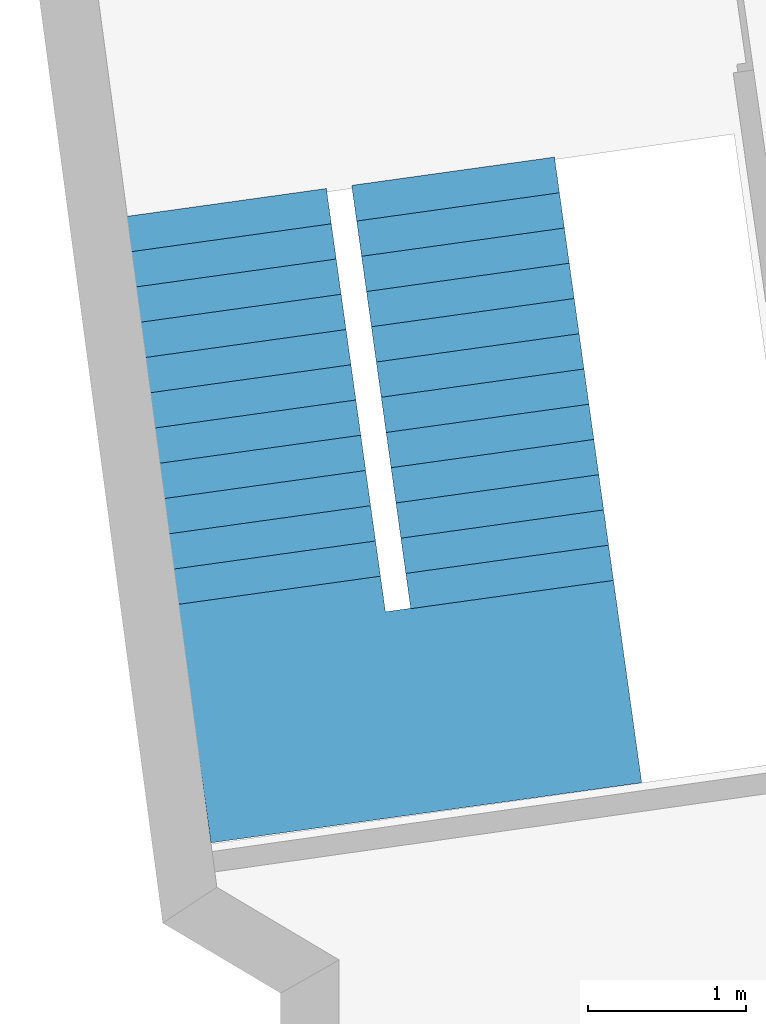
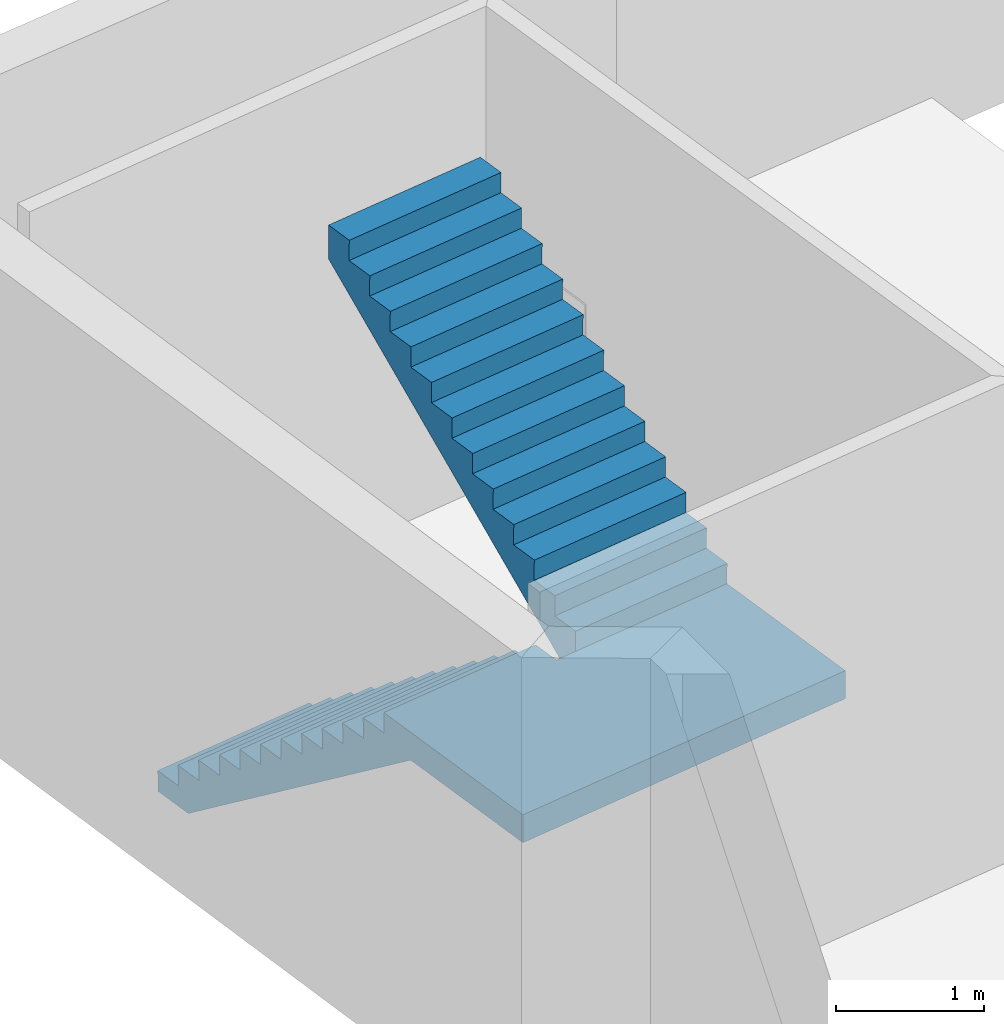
# One storey, part 12 of 17: 1 stair.
"""IFC2X3 building model written with IfcOpenShell, lengths in metres."""

from ifc_helpers import new_model, entity, si_unit, converted_unit, money_unit, direction, frame, origin_with_axes, place, context, subcontext, project, spatial, faceted_brep, material, element, save


model = new_model("IFC2X3")

# Units and contexts
model_context = context("Model", 3, precision=1e-05, world=origin_with_axes(), true_north=direction((0.0, 1.0)))
body_context = subcontext(model_context, "Body", "Model", "MODEL_VIEW")
ifc_project = project(units=[si_unit("LENGTHUNIT", "METRE"), si_unit("AREAUNIT", "SQUARE_METRE"), si_unit("VOLUMEUNIT", "CUBIC_METRE"), converted_unit("PLANEANGLEUNIT", "DEGREE", entity("IfcPlaneAngleMeasure", 0.0174532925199), si_unit("PLANEANGLEUNIT", "RADIAN"), dimensions=[0, 0, 0, 0, 0, 0, 0]), si_unit("SOLIDANGLEUNIT", "STERADIAN"), money_unit("EUR"), converted_unit("TIMEUNIT", "Year", entity("IfcTimeMeasure", 31556926.0), si_unit("TIMEUNIT", "SECOND"), dimensions=[0, 0, 0, 0, 0, 0, 0]), si_unit("MASSUNIT", "GRAM"), si_unit("THERMODYNAMICTEMPERATUREUNIT", "DEGREE_CELSIUS"), si_unit("LUMINOUSINTENSITYUNIT", "LUMEN")], contexts=[model_context])

# Site, building, storey
site_placement = place(None, origin_with_axes())
site = spatial("IfcSite", under=ifc_project, at=site_placement, Name="Undefined", CompositionType="ELEMENT")
building_placement = place(site_placement, origin_with_axes())
building = spatial("IfcBuilding", under=site, at=building_placement, Name="Undefined", CompositionType="ELEMENT")
storey_placement = place(building_placement, frame((0.0, 0.0, 9.425), z_axis=(0.0, 0.0, 1.0), x_axis=(1.0, 0.0, 0.0)))
storey = spatial("IfcBuildingStorey", under=building, at=storey_placement, Name="Mezzannine", CompositionType="ELEMENT", Elevation=9.425)

# Stair
ifc_material = material(Name="Concrete Block")
stair_placement = place(storey_placement, frame((-1.36505046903, 23.3587737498, 0.0), z_axis=(0.0, 0.0, 1.0), x_axis=(0.138136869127, -0.990413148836, 0.0)))
element("IfcStair", 1, at=stair_placement, inside=storey, material=ifc_material, Name="Stair_01", ObjectType="STAIR", ShapeType="NOTDEFINED", context=body_context, shape_type="Brep", body=[
    faceted_brep([(0.334833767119, 0.0, 0.0), (0.334833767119, 1.29732646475, 0.0), (2.77183291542, 1.29732646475, 1.785), (2.77183291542, 0.0, 1.785), (0.02, 0.0, 0.0), (0.02, 1.29732646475, 0.0), (0.02, 1.29732646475, 0.137916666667), (0.245461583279, 1.29732646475, 0.137916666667), (0.245461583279, 1.29732646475, 0.305833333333), (0.470923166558, 1.29732646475, 0.305833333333), (0.470923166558, 1.29732646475, 0.47375), (0.696384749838, 1.29732646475, 0.47375), (0.696384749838, 1.29732646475, 0.641666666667), (0.921846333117, 1.29732646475, 0.641666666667), (0.921846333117, 1.29732646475, 0.809583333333), (1.1473079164, 1.29732646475, 0.809583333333), (1.1473079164, 1.29732646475, 0.9775), (1.37276949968, 1.29732646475, 0.9775), (1.37276949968, 1.29732646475, 1.14541666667), (1.59823108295, 1.29732646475, 1.14541666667), (1.59823108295, 1.29732646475, 1.31333333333), (1.82369266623, 1.29732646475, 1.31333333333), (1.82369266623, 1.29732646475, 1.48125), (2.04915424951, 1.29732646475, 1.48125), (2.04915424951, 1.29732646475, 1.64916666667), (2.27461583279, 1.29732646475, 1.64916666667), (2.27461583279, 1.29732646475, 1.81708333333), (2.50007741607, 1.29732646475, 1.81708333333), (2.50007741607, 1.29732646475, 1.985), (2.72553899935, 1.29732646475, 1.985), (4.0028654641, 1.29732646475, 1.985), (4.0028654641, 1.29732646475, 1.785), (4.0028654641, 0.0, 1.785), (4.0028654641, 0.0, 1.985), (2.72553899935, 0.0, 1.985), (2.50007741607, 0.0, 1.985), (2.50007741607, 0.0, 1.81708333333), (2.27461583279, 0.0, 1.81708333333), (2.27461583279, 0.0, 1.64916666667), (2.04915424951, 0.0, 1.64916666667), (2.04915424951, 0.0, 1.48125), (1.82369266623, 0.0, 1.48125), (1.82369266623, 0.0, 1.31333333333), (1.59823108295, 0.0, 1.31333333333), (1.59823108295, 0.0, 1.14541666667), (1.37276949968, 0.0, 1.14541666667), (1.37276949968, 0.0, 0.9775), (1.1473079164, 0.0, 0.9775), (1.1473079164, 0.0, 0.809583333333), (0.921846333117, 0.0, 0.809583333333), (0.921846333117, 0.0, 0.641666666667), (0.696384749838, 0.0, 0.641666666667), (0.696384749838, 0.0, 0.47375), (0.470923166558, 0.0, 0.47375), (0.470923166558, 0.0, 0.305833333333), (0.245461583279, 0.0, 0.305833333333), (0.245461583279, 0.0, 0.137916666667), (0.02, 0.0, 0.137916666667)], [[[0, 1, 2, 3]], [[4, 5, 1, 0]], [[1, 5, 6, 7, 8, 9, 10, 11, 12, 13, 14, 15, 16, 17, 18, 19, 20, 21, 22, 23, 24, 25, 26, 27, 28, 29, 30, 31, 2]], [[3, 2, 31, 32]], [[0, 3, 32, 33, 34, 35, 36, 37, 38, 39, 40, 41, 42, 43, 44, 45, 46, 47, 48, 49, 50, 51, 52, 53, 54, 55, 56, 57, 4]], [[57, 6, 5, 4]], [[56, 7, 6, 57]], [[55, 8, 7, 56]], [[54, 9, 8, 55]], [[53, 10, 9, 54]], [[52, 11, 10, 53]], [[51, 12, 11, 52]], [[50, 13, 12, 51]], [[49, 14, 13, 50]], [[48, 15, 14, 49]], [[47, 16, 15, 48]], [[46, 17, 16, 47]], [[45, 18, 17, 46]], [[44, 19, 18, 45]], [[43, 20, 19, 44]], [[42, 21, 20, 43]], [[41, 22, 21, 42]], [[40, 23, 22, 41]], [[39, 24, 23, 40]], [[38, 25, 24, 39]], [[37, 26, 25, 38]], [[36, 27, 26, 37]], [[35, 28, 27, 36]], [[34, 29, 28, 35]], [[33, 30, 29, 34]], [[32, 31, 30, 33]]]),
    faceted_brep([(2.70553899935, 1.29732646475, 1.985), (2.70553899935, 1.45900763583, 1.985), (2.70553899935, 1.45900763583, 1.785), (2.70553899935, 1.29732646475, 1.785), (4.0028654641, 1.29732646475, 1.985), (4.0028654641, 1.45900763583, 1.985), (4.0028654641, 1.45900763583, 1.785), (2.77183291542, 1.45900763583, 1.785), (2.77183291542, 1.29732646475, 1.785), (4.0028654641, 1.29732646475, 1.785)], [[[0, 1, 2, 3]], [[4, 5, 1, 0]], [[1, 5, 6, 7, 2]], [[3, 2, 7, 8]], [[0, 3, 8, 9, 4]], [[9, 6, 5, 4]], [[8, 7, 6, 9]]]),
    faceted_brep([(2.70553899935, 1.45900763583, 1.985), (2.70553899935, 2.75633410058, 1.985), (2.70553899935, 2.75633410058, 1.785), (2.70553899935, 1.45900763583, 1.785), (4.0028654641, 1.45900763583, 1.985), (4.0028654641, 2.75633410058, 1.985), (4.0028654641, 2.75633410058, 1.785), (4.0028654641, 1.45900763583, 1.785)], [[[0, 1, 2, 3]], [[4, 5, 1, 0]], [[1, 5, 6, 2]], [[3, 2, 6, 7]], [[0, 3, 7, 4]], [[7, 6, 5, 4]]]),
    faceted_brep([(2.70553899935, 1.45900763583, 1.785), (2.63924508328, 1.45900763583, 1.785), (2.63924508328, 2.75633410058, 1.785), (2.70553899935, 2.75633410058, 1.785), (2.70553899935, 1.45900763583, 1.985), (2.68553899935, 1.45900763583, 1.985), (2.68553899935, 1.45900763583, 2.15291666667), (2.46007741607, 1.45900763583, 2.15291666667), (2.46007741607, 1.45900763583, 2.32083333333), (2.23461583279, 1.45900763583, 2.32083333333), (2.23461583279, 1.45900763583, 2.48875), (2.00915424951, 1.45900763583, 2.48875), (2.00915424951, 1.45900763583, 2.65666666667), (1.78369266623, 1.45900763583, 2.65666666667), (1.78369266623, 1.45900763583, 2.82458333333), (1.55823108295, 1.45900763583, 2.82458333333), (1.55823108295, 1.45900763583, 2.9925), (1.33276949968, 1.45900763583, 2.9925), (1.33276949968, 1.45900763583, 3.16041666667), (1.1073079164, 1.45900763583, 3.16041666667), (1.1073079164, 1.45900763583, 3.32833333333), (0.881846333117, 1.45900763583, 3.32833333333), (0.881846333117, 1.45900763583, 3.49625), (0.656384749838, 1.45900763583, 3.49625), (0.656384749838, 1.45900763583, 3.66416666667), (0.430923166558, 1.45900763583, 3.66416666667), (0.430923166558, 1.45900763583, 3.83208333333), (0.205461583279, 1.45900763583, 3.83208333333), (0.205461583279, 1.45900763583, 4.0), (0.0, 1.45900763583, 4.0), (0.0, 1.45900763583, 3.75062638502), (0.0, 2.75633410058, 3.75062638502), (0.0, 2.75633410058, 4.0), (0.205461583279, 2.75633410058, 4.0), (0.205461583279, 2.75633410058, 3.83208333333), (0.430923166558, 2.75633410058, 3.83208333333), (0.430923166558, 2.75633410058, 3.66416666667), (0.656384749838, 2.75633410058, 3.66416666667), (0.656384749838, 2.75633410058, 3.49625), (0.881846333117, 2.75633410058, 3.49625), (0.881846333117, 2.75633410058, 3.32833333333), (1.1073079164, 2.75633410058, 3.32833333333), (1.1073079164, 2.75633410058, 3.16041666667), (1.33276949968, 2.75633410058, 3.16041666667), (1.33276949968, 2.75633410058, 2.9925), (1.55823108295, 2.75633410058, 2.9925), (1.55823108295, 2.75633410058, 2.82458333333), (1.78369266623, 2.75633410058, 2.82458333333), (1.78369266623, 2.75633410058, 2.65666666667), (2.00915424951, 2.75633410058, 2.65666666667), (2.00915424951, 2.75633410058, 2.48875), (2.23461583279, 2.75633410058, 2.48875), (2.23461583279, 2.75633410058, 2.32083333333), (2.46007741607, 2.75633410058, 2.32083333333), (2.46007741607, 2.75633410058, 2.15291666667), (2.68553899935, 2.75633410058, 2.15291666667), (2.68553899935, 2.75633410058, 1.985), (2.70553899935, 2.75633410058, 1.985)], [[[0, 1, 2, 3]], [[0, 4, 5, 6, 7, 8, 9, 10, 11, 12, 13, 14, 15, 16, 17, 18, 19, 20, 21, 22, 23, 24, 25, 26, 27, 28, 29, 30, 1]], [[1, 30, 31, 2]], [[3, 2, 31, 32, 33, 34, 35, 36, 37, 38, 39, 40, 41, 42, 43, 44, 45, 46, 47, 48, 49, 50, 51, 52, 53, 54, 55, 56, 57]], [[4, 0, 3, 57]], [[5, 4, 57, 56]], [[6, 5, 56, 55]], [[7, 6, 55, 54]], [[8, 7, 54, 53]], [[9, 8, 53, 52]], [[10, 9, 52, 51]], [[11, 10, 51, 50]], [[12, 11, 50, 49]], [[13, 12, 49, 48]], [[14, 13, 48, 47]], [[15, 14, 47, 46]], [[16, 15, 46, 45]], [[17, 16, 45, 44]], [[18, 17, 44, 43]], [[19, 18, 43, 42]], [[20, 19, 42, 41]], [[21, 20, 41, 40]], [[22, 21, 40, 39]], [[23, 22, 39, 38]], [[24, 23, 38, 37]], [[25, 24, 37, 36]], [[26, 25, 36, 35]], [[27, 26, 35, 34]], [[28, 27, 34, 33]], [[29, 28, 33, 32]], [[30, 29, 32, 31]]]),
    faceted_brep([(0.0, 0.0, 0.0), (0.0, 1.29732646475, 0.0), (0.02, 1.29732646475, 0.0), (0.02, 0.0, 0.0), (0.0, 0.0, 0.137916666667), (0.0, 1.29732646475, 0.137916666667), (0.02, 1.29732646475, 0.137916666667), (0.02, 0.0, 0.137916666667)], [[[0, 1, 2, 3]], [[4, 5, 1, 0]], [[1, 5, 6, 2]], [[3, 2, 6, 7]], [[0, 3, 7, 4]], [[7, 6, 5, 4]]]),
    faceted_brep([(0.225461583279, 0.0, 0.167916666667), (0.225461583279, 1.29732646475, 0.167916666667), (0.245461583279, 1.29732646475, 0.167916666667), (0.245461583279, 0.0, 0.167916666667), (0.225461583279, 0.0, 0.305833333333), (0.225461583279, 1.29732646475, 0.305833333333), (0.245461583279, 1.29732646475, 0.305833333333), (0.245461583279, 0.0, 0.305833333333)], [[[0, 1, 2, 3]], [[4, 5, 1, 0]], [[1, 5, 6, 2]], [[3, 2, 6, 7]], [[0, 3, 7, 4]], [[7, 6, 5, 4]]]),
    faceted_brep([(0.450923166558, 0.0, 0.335833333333), (0.450923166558, 1.29732646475, 0.335833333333), (0.470923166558, 1.29732646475, 0.335833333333), (0.470923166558, 0.0, 0.335833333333), (0.450923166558, 0.0, 0.47375), (0.450923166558, 1.29732646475, 0.47375), (0.470923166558, 1.29732646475, 0.47375), (0.470923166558, 0.0, 0.47375)], [[[0, 1, 2, 3]], [[4, 5, 1, 0]], [[1, 5, 6, 2]], [[3, 2, 6, 7]], [[0, 3, 7, 4]], [[7, 6, 5, 4]]]),
    faceted_brep([(0.676384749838, 0.0, 0.50375), (0.676384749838, 1.29732646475, 0.50375), (0.696384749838, 1.29732646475, 0.50375), (0.696384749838, 0.0, 0.50375), (0.676384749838, 0.0, 0.641666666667), (0.676384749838, 1.29732646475, 0.641666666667), (0.696384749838, 1.29732646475, 0.641666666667), (0.696384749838, 0.0, 0.641666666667)], [[[0, 1, 2, 3]], [[4, 5, 1, 0]], [[1, 5, 6, 2]], [[3, 2, 6, 7]], [[0, 3, 7, 4]], [[7, 6, 5, 4]]]),
    faceted_brep([(0.901846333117, 0.0, 0.671666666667), (0.901846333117, 1.29732646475, 0.671666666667), (0.921846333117, 1.29732646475, 0.671666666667), (0.921846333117, 0.0, 0.671666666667), (0.901846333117, 0.0, 0.809583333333), (0.901846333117, 1.29732646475, 0.809583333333), (0.921846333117, 1.29732646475, 0.809583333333), (0.921846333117, 0.0, 0.809583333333)], [[[0, 1, 2, 3]], [[4, 5, 1, 0]], [[1, 5, 6, 2]], [[3, 2, 6, 7]], [[0, 3, 7, 4]], [[7, 6, 5, 4]]]),
    faceted_brep([(1.1273079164, 0.0, 0.839583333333), (1.1273079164, 1.29732646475, 0.839583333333), (1.1473079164, 1.29732646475, 0.839583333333), (1.1473079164, 0.0, 0.839583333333), (1.1273079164, 0.0, 0.9775), (1.1273079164, 1.29732646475, 0.9775), (1.1473079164, 1.29732646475, 0.9775), (1.1473079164, 0.0, 0.9775)], [[[0, 1, 2, 3]], [[4, 5, 1, 0]], [[1, 5, 6, 2]], [[3, 2, 6, 7]], [[0, 3, 7, 4]], [[7, 6, 5, 4]]]),
    faceted_brep([(1.35276949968, 0.0, 1.0075), (1.35276949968, 1.29732646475, 1.0075), (1.37276949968, 1.29732646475, 1.0075), (1.37276949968, 0.0, 1.0075), (1.35276949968, 0.0, 1.14541666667), (1.35276949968, 1.29732646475, 1.14541666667), (1.37276949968, 1.29732646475, 1.14541666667), (1.37276949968, 0.0, 1.14541666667)], [[[0, 1, 2, 3]], [[4, 5, 1, 0]], [[1, 5, 6, 2]], [[3, 2, 6, 7]], [[0, 3, 7, 4]], [[7, 6, 5, 4]]]),
    faceted_brep([(1.57823108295, 0.0, 1.17541666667), (1.57823108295, 1.29732646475, 1.17541666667), (1.59823108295, 1.29732646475, 1.17541666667), (1.59823108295, 0.0, 1.17541666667), (1.57823108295, 0.0, 1.31333333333), (1.57823108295, 1.29732646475, 1.31333333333), (1.59823108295, 1.29732646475, 1.31333333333), (1.59823108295, 0.0, 1.31333333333)], [[[0, 1, 2, 3]], [[4, 5, 1, 0]], [[1, 5, 6, 2]], [[3, 2, 6, 7]], [[0, 3, 7, 4]], [[7, 6, 5, 4]]]),
    faceted_brep([(1.80369266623, 0.0, 1.34333333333), (1.80369266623, 1.29732646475, 1.34333333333), (1.82369266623, 1.29732646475, 1.34333333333), (1.82369266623, 0.0, 1.34333333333), (1.80369266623, 0.0, 1.48125), (1.80369266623, 1.29732646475, 1.48125), (1.82369266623, 1.29732646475, 1.48125), (1.82369266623, 0.0, 1.48125)], [[[0, 1, 2, 3]], [[4, 5, 1, 0]], [[1, 5, 6, 2]], [[3, 2, 6, 7]], [[0, 3, 7, 4]], [[7, 6, 5, 4]]]),
    faceted_brep([(2.02915424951, 0.0, 1.51125), (2.02915424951, 1.29732646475, 1.51125), (2.04915424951, 1.29732646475, 1.51125), (2.04915424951, 0.0, 1.51125), (2.02915424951, 0.0, 1.64916666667), (2.02915424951, 1.29732646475, 1.64916666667), (2.04915424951, 1.29732646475, 1.64916666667), (2.04915424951, 0.0, 1.64916666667)], [[[0, 1, 2, 3]], [[4, 5, 1, 0]], [[1, 5, 6, 2]], [[3, 2, 6, 7]], [[0, 3, 7, 4]], [[7, 6, 5, 4]]]),
    faceted_brep([(2.25461583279, 0.0, 1.67916666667), (2.25461583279, 1.29732646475, 1.67916666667), (2.27461583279, 1.29732646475, 1.67916666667), (2.27461583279, 0.0, 1.67916666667), (2.25461583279, 0.0, 1.81708333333), (2.25461583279, 1.29732646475, 1.81708333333), (2.27461583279, 1.29732646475, 1.81708333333), (2.27461583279, 0.0, 1.81708333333)], [[[0, 1, 2, 3]], [[4, 5, 1, 0]], [[1, 5, 6, 2]], [[3, 2, 6, 7]], [[0, 3, 7, 4]], [[7, 6, 5, 4]]]),
    faceted_brep([(2.48007741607, 0.0, 1.84708333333), (2.48007741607, 1.29732646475, 1.84708333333), (2.50007741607, 1.29732646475, 1.84708333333), (2.50007741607, 0.0, 1.84708333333), (2.48007741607, 0.0, 1.985), (2.48007741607, 1.29732646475, 1.985), (2.50007741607, 1.29732646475, 1.985), (2.50007741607, 0.0, 1.985)], [[[0, 1, 2, 3]], [[4, 5, 1, 0]], [[1, 5, 6, 2]], [[3, 2, 6, 7]], [[0, 3, 7, 4]], [[7, 6, 5, 4]]]),
    faceted_brep([(2.70553899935, 1.45900763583, 2.015), (2.68553899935, 1.45900763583, 2.015), (2.68553899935, 2.75633410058, 2.015), (2.70553899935, 2.75633410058, 2.015), (2.70553899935, 1.45900763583, 2.15291666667), (2.68553899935, 1.45900763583, 2.15291666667), (2.68553899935, 2.75633410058, 2.15291666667), (2.70553899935, 2.75633410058, 2.15291666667)], [[[0, 1, 2, 3]], [[0, 4, 5, 1]], [[1, 5, 6, 2]], [[3, 2, 6, 7]], [[4, 0, 3, 7]], [[5, 4, 7, 6]]]),
    faceted_brep([(2.48007741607, 1.45900763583, 2.18291666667), (2.46007741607, 1.45900763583, 2.18291666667), (2.46007741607, 2.75633410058, 2.18291666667), (2.48007741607, 2.75633410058, 2.18291666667), (2.48007741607, 1.45900763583, 2.32083333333), (2.46007741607, 1.45900763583, 2.32083333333), (2.46007741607, 2.75633410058, 2.32083333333), (2.48007741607, 2.75633410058, 2.32083333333)], [[[0, 1, 2, 3]], [[0, 4, 5, 1]], [[1, 5, 6, 2]], [[3, 2, 6, 7]], [[4, 0, 3, 7]], [[5, 4, 7, 6]]]),
    faceted_brep([(2.25461583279, 1.45900763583, 2.35083333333), (2.23461583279, 1.45900763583, 2.35083333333), (2.23461583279, 2.75633410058, 2.35083333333), (2.25461583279, 2.75633410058, 2.35083333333), (2.25461583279, 1.45900763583, 2.48875), (2.23461583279, 1.45900763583, 2.48875), (2.23461583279, 2.75633410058, 2.48875), (2.25461583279, 2.75633410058, 2.48875)], [[[0, 1, 2, 3]], [[0, 4, 5, 1]], [[1, 5, 6, 2]], [[3, 2, 6, 7]], [[4, 0, 3, 7]], [[5, 4, 7, 6]]]),
    faceted_brep([(2.02915424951, 1.45900763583, 2.51875), (2.00915424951, 1.45900763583, 2.51875), (2.00915424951, 2.75633410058, 2.51875), (2.02915424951, 2.75633410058, 2.51875), (2.02915424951, 1.45900763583, 2.65666666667), (2.00915424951, 1.45900763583, 2.65666666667), (2.00915424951, 2.75633410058, 2.65666666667), (2.02915424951, 2.75633410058, 2.65666666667)], [[[0, 1, 2, 3]], [[0, 4, 5, 1]], [[1, 5, 6, 2]], [[3, 2, 6, 7]], [[4, 0, 3, 7]], [[5, 4, 7, 6]]]),
    faceted_brep([(1.80369266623, 1.45900763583, 2.68666666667), (1.78369266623, 1.45900763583, 2.68666666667), (1.78369266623, 2.75633410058, 2.68666666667), (1.80369266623, 2.75633410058, 2.68666666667), (1.80369266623, 1.45900763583, 2.82458333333), (1.78369266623, 1.45900763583, 2.82458333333), (1.78369266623, 2.75633410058, 2.82458333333), (1.80369266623, 2.75633410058, 2.82458333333)], [[[0, 1, 2, 3]], [[0, 4, 5, 1]], [[1, 5, 6, 2]], [[3, 2, 6, 7]], [[4, 0, 3, 7]], [[5, 4, 7, 6]]]),
    faceted_brep([(1.57823108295, 1.45900763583, 2.85458333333), (1.55823108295, 1.45900763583, 2.85458333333), (1.55823108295, 2.75633410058, 2.85458333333), (1.57823108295, 2.75633410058, 2.85458333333), (1.57823108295, 1.45900763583, 2.9925), (1.55823108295, 1.45900763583, 2.9925), (1.55823108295, 2.75633410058, 2.9925), (1.57823108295, 2.75633410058, 2.9925)], [[[0, 1, 2, 3]], [[0, 4, 5, 1]], [[1, 5, 6, 2]], [[3, 2, 6, 7]], [[4, 0, 3, 7]], [[5, 4, 7, 6]]]),
    faceted_brep([(1.35276949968, 1.45900763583, 3.0225), (1.33276949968, 1.45900763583, 3.0225), (1.33276949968, 2.75633410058, 3.0225), (1.35276949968, 2.75633410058, 3.0225), (1.35276949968, 1.45900763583, 3.16041666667), (1.33276949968, 1.45900763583, 3.16041666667), (1.33276949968, 2.75633410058, 3.16041666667), (1.35276949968, 2.75633410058, 3.16041666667)], [[[0, 1, 2, 3]], [[0, 4, 5, 1]], [[1, 5, 6, 2]], [[3, 2, 6, 7]], [[4, 0, 3, 7]], [[5, 4, 7, 6]]]),
    faceted_brep([(1.1273079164, 1.45900763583, 3.19041666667), (1.1073079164, 1.45900763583, 3.19041666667), (1.1073079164, 2.75633410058, 3.19041666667), (1.1273079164, 2.75633410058, 3.19041666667), (1.1273079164, 1.45900763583, 3.32833333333), (1.1073079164, 1.45900763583, 3.32833333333), (1.1073079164, 2.75633410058, 3.32833333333), (1.1273079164, 2.75633410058, 3.32833333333)], [[[0, 1, 2, 3]], [[0, 4, 5, 1]], [[1, 5, 6, 2]], [[3, 2, 6, 7]], [[4, 0, 3, 7]], [[5, 4, 7, 6]]]),
    faceted_brep([(0.901846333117, 1.45900763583, 3.35833333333), (0.881846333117, 1.45900763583, 3.35833333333), (0.881846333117, 2.75633410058, 3.35833333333), (0.901846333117, 2.75633410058, 3.35833333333), (0.901846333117, 1.45900763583, 3.49625), (0.881846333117, 1.45900763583, 3.49625), (0.881846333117, 2.75633410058, 3.49625), (0.901846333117, 2.75633410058, 3.49625)], [[[0, 1, 2, 3]], [[0, 4, 5, 1]], [[1, 5, 6, 2]], [[3, 2, 6, 7]], [[4, 0, 3, 7]], [[5, 4, 7, 6]]]),
    faceted_brep([(0.676384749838, 1.45900763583, 3.52625), (0.656384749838, 1.45900763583, 3.52625), (0.656384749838, 2.75633410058, 3.52625), (0.676384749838, 2.75633410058, 3.52625), (0.676384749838, 1.45900763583, 3.66416666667), (0.656384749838, 1.45900763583, 3.66416666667), (0.656384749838, 2.75633410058, 3.66416666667), (0.676384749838, 2.75633410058, 3.66416666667)], [[[0, 1, 2, 3]], [[0, 4, 5, 1]], [[1, 5, 6, 2]], [[3, 2, 6, 7]], [[4, 0, 3, 7]], [[5, 4, 7, 6]]]),
    faceted_brep([(0.450923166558, 1.45900763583, 3.69416666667), (0.430923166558, 1.45900763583, 3.69416666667), (0.430923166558, 2.75633410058, 3.69416666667), (0.450923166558, 2.75633410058, 3.69416666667), (0.450923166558, 1.45900763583, 3.83208333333), (0.430923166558, 1.45900763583, 3.83208333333), (0.430923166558, 2.75633410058, 3.83208333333), (0.450923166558, 2.75633410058, 3.83208333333)], [[[0, 1, 2, 3]], [[0, 4, 5, 1]], [[1, 5, 6, 2]], [[3, 2, 6, 7]], [[4, 0, 3, 7]], [[5, 4, 7, 6]]]),
    faceted_brep([(0.225461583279, 1.45900763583, 3.86208333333), (0.205461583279, 1.45900763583, 3.86208333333), (0.205461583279, 2.75633410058, 3.86208333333), (0.225461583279, 2.75633410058, 3.86208333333), (0.225461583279, 1.45900763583, 4.0), (0.205461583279, 1.45900763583, 4.0), (0.205461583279, 2.75633410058, 4.0), (0.225461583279, 2.75633410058, 4.0)], [[[0, 1, 2, 3]], [[0, 4, 5, 1]], [[1, 5, 6, 2]], [[3, 2, 6, 7]], [[4, 0, 3, 7]], [[5, 4, 7, 6]]]),
    faceted_brep([(-0.0025, 0.0, 0.137916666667), (-0.00249999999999, 1.29732646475, 0.137916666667), (0.245461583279, 1.29732646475, 0.137916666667), (0.245461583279, 0.0, 0.137916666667), (-0.0025, 0.0, 0.167916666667), (-0.00249999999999, 1.29732646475, 0.167916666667), (0.245461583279, 1.29732646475, 0.167916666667), (0.245461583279, 0.0, 0.167916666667)], [[[0, 1, 2, 3]], [[4, 5, 1, 0]], [[1, 5, 6, 2]], [[3, 2, 6, 7]], [[0, 3, 7, 4]], [[7, 6, 5, 4]]]),
    faceted_brep([(0.222961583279, 0.0, 0.305833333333), (0.222961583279, 1.29732646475, 0.305833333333), (0.470923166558, 1.29732646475, 0.305833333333), (0.470923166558, 0.0, 0.305833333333), (0.222961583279, 0.0, 0.335833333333), (0.222961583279, 1.29732646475, 0.335833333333), (0.470923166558, 1.29732646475, 0.335833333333), (0.470923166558, 0.0, 0.335833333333)], [[[0, 1, 2, 3]], [[4, 5, 1, 0]], [[1, 5, 6, 2]], [[3, 2, 6, 7]], [[0, 3, 7, 4]], [[7, 6, 5, 4]]]),
    faceted_brep([(0.448423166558, 0.0, 0.47375), (0.448423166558, 1.29732646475, 0.47375), (0.696384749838, 1.29732646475, 0.47375), (0.696384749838, 0.0, 0.47375), (0.448423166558, 0.0, 0.50375), (0.448423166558, 1.29732646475, 0.50375), (0.696384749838, 1.29732646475, 0.50375), (0.696384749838, 0.0, 0.50375)], [[[0, 1, 2, 3]], [[4, 5, 1, 0]], [[1, 5, 6, 2]], [[3, 2, 6, 7]], [[0, 3, 7, 4]], [[7, 6, 5, 4]]]),
    faceted_brep([(0.673884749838, 0.0, 0.641666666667), (0.673884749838, 1.29732646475, 0.641666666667), (0.921846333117, 1.29732646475, 0.641666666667), (0.921846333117, 0.0, 0.641666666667), (0.673884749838, 0.0, 0.671666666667), (0.673884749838, 1.29732646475, 0.671666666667), (0.921846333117, 1.29732646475, 0.671666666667), (0.921846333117, 0.0, 0.671666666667)], [[[0, 1, 2, 3]], [[4, 5, 1, 0]], [[1, 5, 6, 2]], [[3, 2, 6, 7]], [[0, 3, 7, 4]], [[7, 6, 5, 4]]]),
    faceted_brep([(0.899346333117, 0.0, 0.809583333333), (0.899346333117, 1.29732646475, 0.809583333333), (1.1473079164, 1.29732646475, 0.809583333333), (1.1473079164, 0.0, 0.809583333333), (0.899346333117, 0.0, 0.839583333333), (0.899346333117, 1.29732646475, 0.839583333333), (1.1473079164, 1.29732646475, 0.839583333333), (1.1473079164, 0.0, 0.839583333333)], [[[0, 1, 2, 3]], [[4, 5, 1, 0]], [[1, 5, 6, 2]], [[3, 2, 6, 7]], [[0, 3, 7, 4]], [[7, 6, 5, 4]]]),
    faceted_brep([(1.1248079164, 0.0, 0.9775), (1.1248079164, 1.29732646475, 0.9775), (1.37276949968, 1.29732646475, 0.9775), (1.37276949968, 0.0, 0.9775), (1.1248079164, 0.0, 1.0075), (1.1248079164, 1.29732646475, 1.0075), (1.37276949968, 1.29732646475, 1.0075), (1.37276949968, 0.0, 1.0075)], [[[0, 1, 2, 3]], [[4, 5, 1, 0]], [[1, 5, 6, 2]], [[3, 2, 6, 7]], [[0, 3, 7, 4]], [[7, 6, 5, 4]]]),
    faceted_brep([(1.35026949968, 0.0, 1.14541666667), (1.35026949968, 1.29732646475, 1.14541666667), (1.59823108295, 1.29732646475, 1.14541666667), (1.59823108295, 0.0, 1.14541666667), (1.35026949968, 0.0, 1.17541666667), (1.35026949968, 1.29732646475, 1.17541666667), (1.59823108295, 1.29732646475, 1.17541666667), (1.59823108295, 0.0, 1.17541666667)], [[[0, 1, 2, 3]], [[4, 5, 1, 0]], [[1, 5, 6, 2]], [[3, 2, 6, 7]], [[0, 3, 7, 4]], [[7, 6, 5, 4]]]),
    faceted_brep([(1.57573108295, 0.0, 1.31333333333), (1.57573108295, 1.29732646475, 1.31333333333), (1.82369266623, 1.29732646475, 1.31333333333), (1.82369266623, 0.0, 1.31333333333), (1.57573108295, 0.0, 1.34333333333), (1.57573108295, 1.29732646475, 1.34333333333), (1.82369266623, 1.29732646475, 1.34333333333), (1.82369266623, 0.0, 1.34333333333)], [[[0, 1, 2, 3]], [[4, 5, 1, 0]], [[1, 5, 6, 2]], [[3, 2, 6, 7]], [[0, 3, 7, 4]], [[7, 6, 5, 4]]]),
    faceted_brep([(1.80119266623, 0.0, 1.48125), (1.80119266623, 1.29732646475, 1.48125), (2.04915424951, 1.29732646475, 1.48125), (2.04915424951, 0.0, 1.48125), (1.80119266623, 0.0, 1.51125), (1.80119266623, 1.29732646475, 1.51125), (2.04915424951, 1.29732646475, 1.51125), (2.04915424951, 0.0, 1.51125)], [[[0, 1, 2, 3]], [[4, 5, 1, 0]], [[1, 5, 6, 2]], [[3, 2, 6, 7]], [[0, 3, 7, 4]], [[7, 6, 5, 4]]]),
    faceted_brep([(2.02665424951, 0.0, 1.64916666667), (2.02665424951, 1.29732646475, 1.64916666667), (2.27461583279, 1.29732646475, 1.64916666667), (2.27461583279, 0.0, 1.64916666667), (2.02665424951, 0.0, 1.67916666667), (2.02665424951, 1.29732646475, 1.67916666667), (2.27461583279, 1.29732646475, 1.67916666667), (2.27461583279, 0.0, 1.67916666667)], [[[0, 1, 2, 3]], [[4, 5, 1, 0]], [[1, 5, 6, 2]], [[3, 2, 6, 7]], [[0, 3, 7, 4]], [[7, 6, 5, 4]]]),
    faceted_brep([(2.25211583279, 0.0, 1.81708333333), (2.25211583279, 1.29732646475, 1.81708333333), (2.50007741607, 1.29732646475, 1.81708333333), (2.50007741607, 0.0, 1.81708333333), (2.25211583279, 0.0, 1.84708333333), (2.25211583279, 1.29732646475, 1.84708333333), (2.50007741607, 1.29732646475, 1.84708333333), (2.50007741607, 0.0, 1.84708333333)], [[[0, 1, 2, 3]], [[4, 5, 1, 0]], [[1, 5, 6, 2]], [[3, 2, 6, 7]], [[0, 3, 7, 4]], [[7, 6, 5, 4]]]),
    faceted_brep([(2.47757741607, 0.0, 1.985), (2.47757741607, 1.29732646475, 1.985), (2.70553899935, 1.29732646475, 1.985), (2.70553899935, 0.0, 1.985), (2.47757741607, 0.0, 2.015), (2.47757741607, 1.29732646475, 2.015), (2.70553899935, 1.29732646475, 2.015), (2.70553899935, 0.0, 2.015)], [[[0, 1, 2, 3]], [[4, 5, 1, 0]], [[1, 5, 6, 2]], [[3, 2, 6, 7]], [[0, 3, 7, 4]], [[7, 6, 5, 4]]]),
    faceted_brep([(4.0028654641, 0.0, 1.985), (4.0028654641, 1.45900763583, 1.985), (4.0028654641, 1.45900763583, 2.015), (4.0028654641, 0.0, 2.015), (2.70553899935, 0.0, 1.985), (2.70553899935, 1.45900763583, 1.985), (2.70553899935, 1.45900763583, 2.015), (2.70553899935, 0.0, 2.015)], [[[0, 1, 2, 3]], [[4, 5, 1, 0]], [[1, 5, 6, 2]], [[3, 2, 6, 7]], [[0, 3, 7, 4]], [[7, 6, 5, 4]]]),
    faceted_brep([(4.0028654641, 1.45900763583, 1.985), (4.0028654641, 2.75633410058, 1.985), (4.0028654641, 2.75633410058, 2.015), (4.0028654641, 1.45900763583, 2.015), (2.68553899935, 1.45900763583, 1.985), (2.68553899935, 2.75633410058, 1.985), (2.68553899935, 2.75633410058, 2.015), (2.68553899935, 1.45900763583, 2.015)], [[[0, 1, 2, 3]], [[4, 5, 1, 0]], [[1, 5, 6, 2]], [[3, 2, 6, 7]], [[0, 3, 7, 4]], [[7, 6, 5, 4]]]),
    faceted_brep([(2.70803899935, 1.45900763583, 2.15291666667), (2.46007741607, 1.45900763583, 2.15291666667), (2.46007741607, 2.75633410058, 2.15291666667), (2.70803899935, 2.75633410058, 2.15291666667), (2.70803899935, 1.45900763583, 2.18291666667), (2.46007741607, 1.45900763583, 2.18291666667), (2.46007741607, 2.75633410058, 2.18291666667), (2.70803899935, 2.75633410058, 2.18291666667)], [[[0, 1, 2, 3]], [[0, 4, 5, 1]], [[1, 5, 6, 2]], [[3, 2, 6, 7]], [[4, 0, 3, 7]], [[5, 4, 7, 6]]]),
    faceted_brep([(2.48257741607, 1.45900763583, 2.32083333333), (2.23461583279, 1.45900763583, 2.32083333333), (2.23461583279, 2.75633410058, 2.32083333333), (2.48257741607, 2.75633410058, 2.32083333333), (2.48257741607, 1.45900763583, 2.35083333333), (2.23461583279, 1.45900763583, 2.35083333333), (2.23461583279, 2.75633410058, 2.35083333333), (2.48257741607, 2.75633410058, 2.35083333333)], [[[0, 1, 2, 3]], [[0, 4, 5, 1]], [[1, 5, 6, 2]], [[3, 2, 6, 7]], [[4, 0, 3, 7]], [[5, 4, 7, 6]]]),
    faceted_brep([(2.25711583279, 1.45900763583, 2.48875), (2.00915424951, 1.45900763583, 2.48875), (2.00915424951, 2.75633410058, 2.48875), (2.25711583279, 2.75633410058, 2.48875), (2.25711583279, 1.45900763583, 2.51875), (2.00915424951, 1.45900763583, 2.51875), (2.00915424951, 2.75633410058, 2.51875), (2.25711583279, 2.75633410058, 2.51875)], [[[0, 1, 2, 3]], [[0, 4, 5, 1]], [[1, 5, 6, 2]], [[3, 2, 6, 7]], [[4, 0, 3, 7]], [[5, 4, 7, 6]]]),
    faceted_brep([(2.03165424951, 1.45900763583, 2.65666666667), (1.78369266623, 1.45900763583, 2.65666666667), (1.78369266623, 2.75633410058, 2.65666666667), (2.03165424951, 2.75633410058, 2.65666666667), (2.03165424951, 1.45900763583, 2.68666666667), (1.78369266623, 1.45900763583, 2.68666666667), (1.78369266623, 2.75633410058, 2.68666666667), (2.03165424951, 2.75633410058, 2.68666666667)], [[[0, 1, 2, 3]], [[0, 4, 5, 1]], [[1, 5, 6, 2]], [[3, 2, 6, 7]], [[4, 0, 3, 7]], [[5, 4, 7, 6]]]),
    faceted_brep([(1.80619266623, 1.45900763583, 2.82458333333), (1.55823108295, 1.45900763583, 2.82458333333), (1.55823108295, 2.75633410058, 2.82458333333), (1.80619266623, 2.75633410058, 2.82458333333), (1.80619266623, 1.45900763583, 2.85458333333), (1.55823108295, 1.45900763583, 2.85458333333), (1.55823108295, 2.75633410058, 2.85458333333), (1.80619266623, 2.75633410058, 2.85458333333)], [[[0, 1, 2, 3]], [[0, 4, 5, 1]], [[1, 5, 6, 2]], [[3, 2, 6, 7]], [[4, 0, 3, 7]], [[5, 4, 7, 6]]]),
    faceted_brep([(1.58073108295, 1.45900763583, 2.9925), (1.33276949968, 1.45900763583, 2.9925), (1.33276949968, 2.75633410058, 2.9925), (1.58073108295, 2.75633410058, 2.9925), (1.58073108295, 1.45900763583, 3.0225), (1.33276949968, 1.45900763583, 3.0225), (1.33276949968, 2.75633410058, 3.0225), (1.58073108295, 2.75633410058, 3.0225)], [[[0, 1, 2, 3]], [[0, 4, 5, 1]], [[1, 5, 6, 2]], [[3, 2, 6, 7]], [[4, 0, 3, 7]], [[5, 4, 7, 6]]]),
    faceted_brep([(1.35526949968, 1.45900763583, 3.16041666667), (1.1073079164, 1.45900763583, 3.16041666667), (1.1073079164, 2.75633410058, 3.16041666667), (1.35526949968, 2.75633410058, 3.16041666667), (1.35526949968, 1.45900763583, 3.19041666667), (1.1073079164, 1.45900763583, 3.19041666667), (1.1073079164, 2.75633410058, 3.19041666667), (1.35526949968, 2.75633410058, 3.19041666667)], [[[0, 1, 2, 3]], [[0, 4, 5, 1]], [[1, 5, 6, 2]], [[3, 2, 6, 7]], [[4, 0, 3, 7]], [[5, 4, 7, 6]]]),
    faceted_brep([(1.1298079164, 1.45900763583, 3.32833333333), (0.881846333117, 1.45900763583, 3.32833333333), (0.881846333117, 2.75633410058, 3.32833333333), (1.1298079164, 2.75633410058, 3.32833333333), (1.1298079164, 1.45900763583, 3.35833333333), (0.881846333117, 1.45900763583, 3.35833333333), (0.881846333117, 2.75633410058, 3.35833333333), (1.1298079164, 2.75633410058, 3.35833333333)], [[[0, 1, 2, 3]], [[0, 4, 5, 1]], [[1, 5, 6, 2]], [[3, 2, 6, 7]], [[4, 0, 3, 7]], [[5, 4, 7, 6]]]),
    faceted_brep([(0.904346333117, 1.45900763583, 3.49625), (0.656384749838, 1.45900763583, 3.49625), (0.656384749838, 2.75633410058, 3.49625), (0.904346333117, 2.75633410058, 3.49625), (0.904346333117, 1.45900763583, 3.52625), (0.656384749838, 1.45900763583, 3.52625), (0.656384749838, 2.75633410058, 3.52625), (0.904346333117, 2.75633410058, 3.52625)], [[[0, 1, 2, 3]], [[0, 4, 5, 1]], [[1, 5, 6, 2]], [[3, 2, 6, 7]], [[4, 0, 3, 7]], [[5, 4, 7, 6]]]),
    faceted_brep([(0.678884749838, 1.45900763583, 3.66416666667), (0.430923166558, 1.45900763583, 3.66416666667), (0.430923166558, 2.75633410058, 3.66416666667), (0.678884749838, 2.75633410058, 3.66416666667), (0.678884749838, 1.45900763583, 3.69416666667), (0.430923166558, 1.45900763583, 3.69416666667), (0.430923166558, 2.75633410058, 3.69416666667), (0.678884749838, 2.75633410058, 3.69416666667)], [[[0, 1, 2, 3]], [[0, 4, 5, 1]], [[1, 5, 6, 2]], [[3, 2, 6, 7]], [[4, 0, 3, 7]], [[5, 4, 7, 6]]]),
    faceted_brep([(0.453423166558, 1.45900763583, 3.83208333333), (0.205461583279, 1.45900763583, 3.83208333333), (0.205461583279, 2.75633410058, 3.83208333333), (0.453423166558, 2.75633410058, 3.83208333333), (0.453423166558, 1.45900763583, 3.86208333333), (0.205461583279, 1.45900763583, 3.86208333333), (0.205461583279, 2.75633410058, 3.86208333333), (0.453423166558, 2.75633410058, 3.86208333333)], [[[0, 1, 2, 3]], [[0, 4, 5, 1]], [[1, 5, 6, 2]], [[3, 2, 6, 7]], [[4, 0, 3, 7]], [[5, 4, 7, 6]]]),
    faceted_brep([(0.227961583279, 1.45900763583, 4.0), (0.0, 1.45900763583, 4.0), (0.0, 2.75633410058, 4.0), (0.227961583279, 2.75633410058, 4.0), (0.227961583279, 1.45900763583, 4.03), (0.0, 1.45900763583, 4.03), (0.0, 2.75633410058, 4.03), (0.227961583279, 2.75633410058, 4.03)], [[[0, 1, 2, 3]], [[0, 4, 5, 1]], [[1, 5, 6, 2]], [[3, 2, 6, 7]], [[4, 0, 3, 7]], [[5, 4, 7, 6]]]),
])

save(model, "model.ifc")
